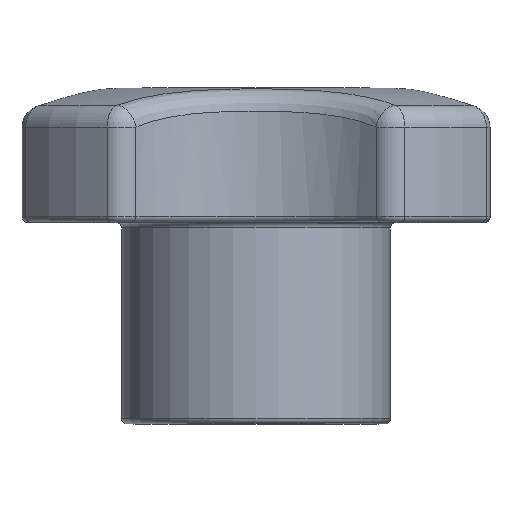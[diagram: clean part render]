
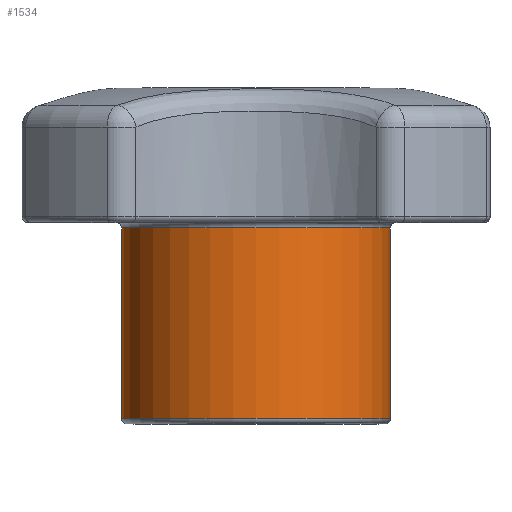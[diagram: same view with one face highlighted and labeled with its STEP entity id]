
A CAD part, top view. The second image highlights one B-rep face of the part: STEP entity #1534.
In plain terms, the highlighted cylindrical face has radius 12 mm (diameter 24 mm), a partial arc.
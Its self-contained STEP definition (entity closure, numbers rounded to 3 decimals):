
#1 = VERTEX_POINT ( 'NONE', #468 ) ;
#37 = VERTEX_POINT ( 'NONE', #483 ) ;
#41 = VERTEX_POINT ( 'NONE', #485 ) ;
#50 = VERTEX_POINT ( 'NONE', #611 ) ;
#244 = AXIS2_PLACEMENT_3D ( 'NONE', #578, #575, #576 ) ;
#295 = AXIS2_PLACEMENT_3D ( 'NONE', #2438, #2440, #2441 ) ;
#354 = EDGE_LOOP ( 'NONE', ( #1769, #1762, #1633, #1767 ) ) ;
#468 = CARTESIAN_POINT ( 'NONE',  ( 12., 0.5, 0. ) ) ;
#483 = CARTESIAN_POINT ( 'NONE',  ( -12., 17.5, 0. ) ) ;
#485 = CARTESIAN_POINT ( 'NONE',  ( 12., 17.5, 0. ) ) ;
#551 = DIRECTION ( 'NONE',  ( 0., 1., 0. ) ) ;
#556 = CARTESIAN_POINT ( 'NONE',  ( -12., 0., 0. ) ) ;
#575 = DIRECTION ( 'NONE',  ( 0., -1., 0. ) ) ;
#576 = DIRECTION ( 'NONE',  ( 1., 0., 0. ) ) ;
#578 = CARTESIAN_POINT ( 'NONE',  ( 0., 17.5, 0. ) ) ;
#611 = CARTESIAN_POINT ( 'NONE',  ( -12., 0.5, 0. ) ) ;
#794 = CARTESIAN_POINT ( 'NONE',  ( 12., 0., 0. ) ) ;
#796 = DIRECTION ( 'NONE',  ( 0., 1., 0. ) ) ;
#1038 = CIRCLE ( 'NONE', #295, 12. ) ;
#1039 = LINE ( 'NONE', #794, #1051 ) ;
#1051 = VECTOR ( 'NONE', #796, 1000. ) ;
#1079 = EDGE_CURVE ( 'NONE', #50, #37, #1601, .T. ) ;
#1083 = EDGE_CURVE ( 'NONE', #41, #37, #1679, .T. ) ;
#1113 = EDGE_CURVE ( 'NONE', #1, #41, #1039, .T. ) ;
#1360 = AXIS2_PLACEMENT_3D ( 'NONE', #2614, #2608, #2607 ) ;
#1404 = EDGE_CURVE ( 'NONE', #50, #1, #1038, .T. ) ;
#1534 = ADVANCED_FACE ( 'NONE', ( #1859 ), #1861, .T. ) ;
#1601 = LINE ( 'NONE', #556, #1706 ) ;
#1633 = ORIENTED_EDGE ( 'NONE', *, *, #1083, .T. ) ;
#1679 = CIRCLE ( 'NONE', #244, 12. ) ;
#1706 = VECTOR ( 'NONE', #551, 1000. ) ;
#1762 = ORIENTED_EDGE ( 'NONE', *, *, #1113, .T. ) ;
#1767 = ORIENTED_EDGE ( 'NONE', *, *, #1079, .F. ) ;
#1769 = ORIENTED_EDGE ( 'NONE', *, *, #1404, .T. ) ;
#1859 = FACE_OUTER_BOUND ( 'NONE', #354, .T. ) ;
#1861 = CYLINDRICAL_SURFACE ( 'NONE', #1360, 12. ) ;
#2438 = CARTESIAN_POINT ( 'NONE',  ( 0., 0.5, 0. ) ) ;
#2440 = DIRECTION ( 'NONE',  ( 0., 1., 0. ) ) ;
#2441 = DIRECTION ( 'NONE',  ( 1., 0., 0. ) ) ;
#2607 = DIRECTION ( 'NONE',  ( -1., 0., 0. ) ) ;
#2608 = DIRECTION ( 'NONE',  ( 0., 1., 0. ) ) ;
#2614 = CARTESIAN_POINT ( 'NONE',  ( 0., 0., 0. ) ) ;
